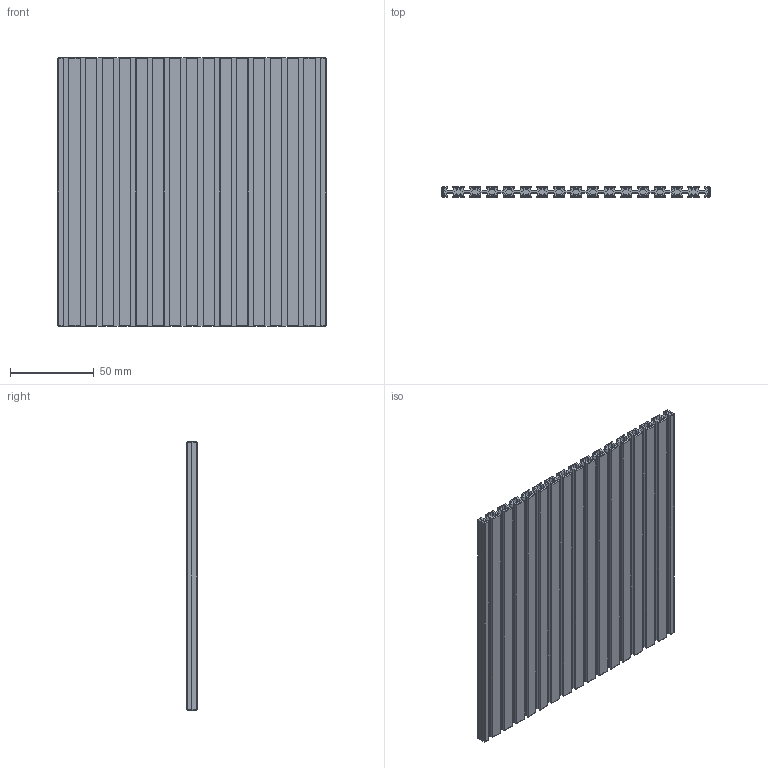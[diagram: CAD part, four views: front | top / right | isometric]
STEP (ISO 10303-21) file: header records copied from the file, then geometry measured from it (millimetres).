
FILE_DESCRIPTION(/* description */ (''),/* implementation_level */ '2;1');
FILE_NAME(/* name */ 'C:/Users/priba/Downloads/Brick16x16x0.6ff.step',/* time_stamp */ '2022-04-03T11:11:57+02:00',/* author */ (''),/* organization */ (''),/* preprocessor_version */ 'ST-DEVELOPER v18.1',/* originating_system */ 'Autodesk Translation Framework v10.13.0.1454',/* authorisation */ '');
FILE_SCHEMA (('AUTOMOTIVE_DESIGN { 1 0 10303 214 3 1 1 }'));
Length unit declared in the file: millimetre
Products named in the file (1): Brick16x16x0.6ff
Bounding box: 160 x 6 x 160 mm (x, y, z)
Volume: 74901.9 mm3; surface area: 121484.1 mm2
Topology: 1 solids, 1 shells, 471 faces, 1328 edges, 876 vertices
Faces by surface type: plane 383, cylinder 80, sphere 8
Entity records: 15036 total; most frequent: CARTESIAN_POINT 2676, ORIENTED_EDGE 2656, DIRECTION 2428, EDGE_CURVE 1328, LINE 1172, VECTOR 1172, VERTEX_POINT 876, AXIS2_PLACEMENT_3D 628
